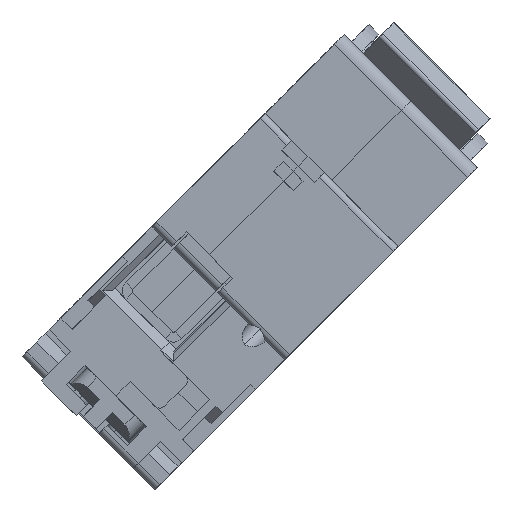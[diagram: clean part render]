
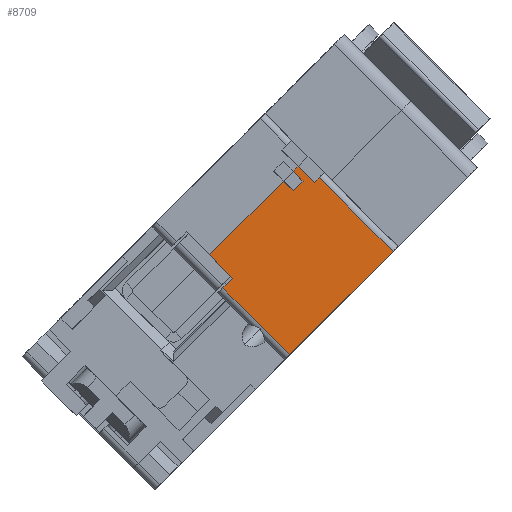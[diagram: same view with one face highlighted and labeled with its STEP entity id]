
A CAD part, front view. The second image highlights one B-rep face of the part: STEP entity #8709.
In plain terms, the highlighted planar face has unit normal (0, -1, 0) as drawn and (-1, 0, 0) by its records, which use the part's own axes.
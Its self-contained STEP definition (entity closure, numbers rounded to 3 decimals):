
#416 = LINE ( 'NONE', #19049, #18069 ) ;
#666 = CARTESIAN_POINT ( 'NONE',  ( -17.65, -18.1, -4.8 ) ) ;
#1300 = ORIENTED_EDGE ( 'NONE', *, *, #19651, .F. ) ;
#1390 = EDGE_CURVE ( 'NONE', #2479, #10538, #8025, .T. ) ;
#1763 = VECTOR ( 'NONE', #21153, 1000. ) ;
#1767 = CARTESIAN_POINT ( 'NONE',  ( -17.65, -39.1, 13.5 ) ) ;
#1819 = LINE ( 'NONE', #11061, #11798 ) ;
#2088 = VERTEX_POINT ( 'NONE', #9936 ) ;
#2312 = ORIENTED_EDGE ( 'NONE', *, *, #4832, .F. ) ;
#2467 = VERTEX_POINT ( 'NONE', #12481 ) ;
#2479 = VERTEX_POINT ( 'NONE', #14325 ) ;
#2705 = DIRECTION ( 'NONE',  ( 0., 0., -1. ) ) ;
#2987 = CARTESIAN_POINT ( 'NONE',  ( -17.65, -18.1, -4.8 ) ) ;
#3753 = VECTOR ( 'NONE', #21199, 1000. ) ;
#3784 = EDGE_CURVE ( 'NONE', #15097, #2479, #1819, .T. ) ;
#4262 = CARTESIAN_POINT ( 'NONE',  ( -17.65, -36.1, -0.1 ) ) ;
#4396 = CARTESIAN_POINT ( 'NONE',  ( -17.65, -36.1, -4.8 ) ) ;
#4516 = VECTOR ( 'NONE', #11898, 1000. ) ;
#4832 = EDGE_CURVE ( 'NONE', #2467, #2088, #14541, .T. ) ;
#5425 = FACE_OUTER_BOUND ( 'NONE', #10436, .T. ) ;
#5532 = EDGE_CURVE ( 'NONE', #6918, #10017, #18649, .T. ) ;
#5615 = VERTEX_POINT ( 'NONE', #8203 ) ;
#5893 = LINE ( 'NONE', #21207, #13840 ) ;
#5902 = VERTEX_POINT ( 'NONE', #6414 ) ;
#5934 = VECTOR ( 'NONE', #10453, 1000. ) ;
#5979 = PLANE ( 'NONE',  #9817 ) ;
#6077 = LINE ( 'NONE', #15163, #4516 ) ;
#6414 = CARTESIAN_POINT ( 'NONE',  ( -17.65, -17.1, -1.5 ) ) ;
#6777 = EDGE_CURVE ( 'NONE', #18496, #10017, #416, .T. ) ;
#6918 = VERTEX_POINT ( 'NONE', #14104 ) ;
#7361 = ORIENTED_EDGE ( 'NONE', *, *, #12885, .F. ) ;
#7468 = DIRECTION ( 'NONE',  ( 0., 0., 1. ) ) ;
#7972 = CARTESIAN_POINT ( 'NONE',  ( -17.65, -18.1, -1.5 ) ) ;
#8025 = LINE ( 'NONE', #20121, #5934 ) ;
#8158 = VECTOR ( 'NONE', #12518, 1000. ) ;
#8203 = CARTESIAN_POINT ( 'NONE',  ( -17.65, -17.1, 13.5 ) ) ;
#8709 = ADVANCED_FACE ( 'NONE', ( #5425 ), #5979, .F. ) ;
#9007 = VERTEX_POINT ( 'NONE', #13389 ) ;
#9406 = DIRECTION ( 'NONE',  ( 0., 0., -1. ) ) ;
#9817 = AXIS2_PLACEMENT_3D ( 'NONE', #14150, #14216, #2705 ) ;
#9936 = CARTESIAN_POINT ( 'NONE',  ( -17.65, -36.1, -0.1 ) ) ;
#10017 = VERTEX_POINT ( 'NONE', #12981 ) ;
#10133 = ORIENTED_EDGE ( 'NONE', *, *, #3784, .F. ) ;
#10383 = ORIENTED_EDGE ( 'NONE', *, *, #5532, .T. ) ;
#10436 = EDGE_LOOP ( 'NONE', ( #2312, #11657, #7361, #14061, #12544, #1300, #19226, #10133, #12268, #10383, #13810, #10476 ) ) ;
#10453 = DIRECTION ( 'NONE',  ( 0., 1., 0. ) ) ;
#10476 = ORIENTED_EDGE ( 'NONE', *, *, #11099, .F. ) ;
#10538 = VERTEX_POINT ( 'NONE', #2987 ) ;
#10892 = DIRECTION ( 'NONE',  ( 0., 1., 0. ) ) ;
#11061 = CARTESIAN_POINT ( 'NONE',  ( -17.65, -19.1, -2.8 ) ) ;
#11099 = EDGE_CURVE ( 'NONE', #2088, #18496, #12582, .T. ) ;
#11657 = ORIENTED_EDGE ( 'NONE', *, *, #13318, .T. ) ;
#11798 = VECTOR ( 'NONE', #9406, 1000. ) ;
#11898 = DIRECTION ( 'NONE',  ( 0., 0., -1. ) ) ;
#12268 = ORIENTED_EDGE ( 'NONE', *, *, #19400, .F. ) ;
#12317 = LINE ( 'NONE', #666, #16119 ) ;
#12473 = DIRECTION ( 'NONE',  ( 0., 0., 1. ) ) ;
#12481 = CARTESIAN_POINT ( 'NONE',  ( -17.65, -38.1, -0.1 ) ) ;
#12518 = DIRECTION ( 'NONE',  ( 0., 1., 0. ) ) ;
#12544 = ORIENTED_EDGE ( 'NONE', *, *, #20854, .F. ) ;
#12582 = LINE ( 'NONE', #4396, #18978 ) ;
#12773 = DIRECTION ( 'NONE',  ( 0., 1., 0. ) ) ;
#12885 = EDGE_CURVE ( 'NONE', #5615, #13098, #13250, .T. ) ;
#12981 = CARTESIAN_POINT ( 'NONE',  ( -17.65, -21.1, -4.8 ) ) ;
#13098 = VERTEX_POINT ( 'NONE', #18562 ) ;
#13206 = DIRECTION ( 'NONE',  ( 0., -1., 0. ) ) ;
#13250 = LINE ( 'NONE', #1767, #16305 ) ;
#13318 = EDGE_CURVE ( 'NONE', #2467, #13098, #19113, .T. ) ;
#13389 = CARTESIAN_POINT ( 'NONE',  ( -17.65, -18.1, -1.5 ) ) ;
#13810 = ORIENTED_EDGE ( 'NONE', *, *, #6777, .F. ) ;
#13840 = VECTOR ( 'NONE', #12773, 1000. ) ;
#14061 = ORIENTED_EDGE ( 'NONE', *, *, #21064, .T. ) ;
#14104 = CARTESIAN_POINT ( 'NONE',  ( -17.65, -21.1, -2.8 ) ) ;
#14150 = CARTESIAN_POINT ( 'NONE',  ( -17.65, -39.1, 13.5 ) ) ;
#14216 = DIRECTION ( 'NONE',  ( 1., 0., 0. ) ) ;
#14325 = CARTESIAN_POINT ( 'NONE',  ( -17.65, -19.1, -4.8 ) ) ;
#14541 = LINE ( 'NONE', #4262, #8158 ) ;
#15097 = VERTEX_POINT ( 'NONE', #20134 ) ;
#15163 = CARTESIAN_POINT ( 'NONE',  ( -17.65, -17.1, 13.5 ) ) ;
#15489 = CARTESIAN_POINT ( 'NONE',  ( -17.65, -36.1, -4.8 ) ) ;
#16053 = LINE ( 'NONE', #7972, #3753 ) ;
#16119 = VECTOR ( 'NONE', #7468, 1000. ) ;
#16281 = VECTOR ( 'NONE', #12473, 1000. ) ;
#16305 = VECTOR ( 'NONE', #13206, 1000. ) ;
#17784 = CARTESIAN_POINT ( 'NONE',  ( -17.65, -21.1, -2.8 ) ) ;
#17790 = DIRECTION ( 'NONE',  ( 0., 0., -1. ) ) ;
#18069 = VECTOR ( 'NONE', #10892, 1000. ) ;
#18496 = VERTEX_POINT ( 'NONE', #15489 ) ;
#18562 = CARTESIAN_POINT ( 'NONE',  ( -17.65, -38.1, 13.5 ) ) ;
#18649 = LINE ( 'NONE', #17784, #1763 ) ;
#18978 = VECTOR ( 'NONE', #17790, 1000. ) ;
#19049 = CARTESIAN_POINT ( 'NONE',  ( -17.65, -16.1, -4.8 ) ) ;
#19113 = LINE ( 'NONE', #19264, #16281 ) ;
#19226 = ORIENTED_EDGE ( 'NONE', *, *, #1390, .F. ) ;
#19264 = CARTESIAN_POINT ( 'NONE',  ( -17.65, -38.1, 13.5 ) ) ;
#19400 = EDGE_CURVE ( 'NONE', #6918, #15097, #5893, .T. ) ;
#19651 = EDGE_CURVE ( 'NONE', #10538, #9007, #12317, .T. ) ;
#20121 = CARTESIAN_POINT ( 'NONE',  ( -17.65, -16.1, -4.8 ) ) ;
#20134 = CARTESIAN_POINT ( 'NONE',  ( -17.65, -19.1, -2.8 ) ) ;
#20854 = EDGE_CURVE ( 'NONE', #9007, #5902, #16053, .T. ) ;
#21064 = EDGE_CURVE ( 'NONE', #5615, #5902, #6077, .T. ) ;
#21153 = DIRECTION ( 'NONE',  ( 0., 0., -1. ) ) ;
#21199 = DIRECTION ( 'NONE',  ( 0., 1., 0. ) ) ;
#21207 = CARTESIAN_POINT ( 'NONE',  ( -17.65, -19.1, -2.8 ) ) ;
